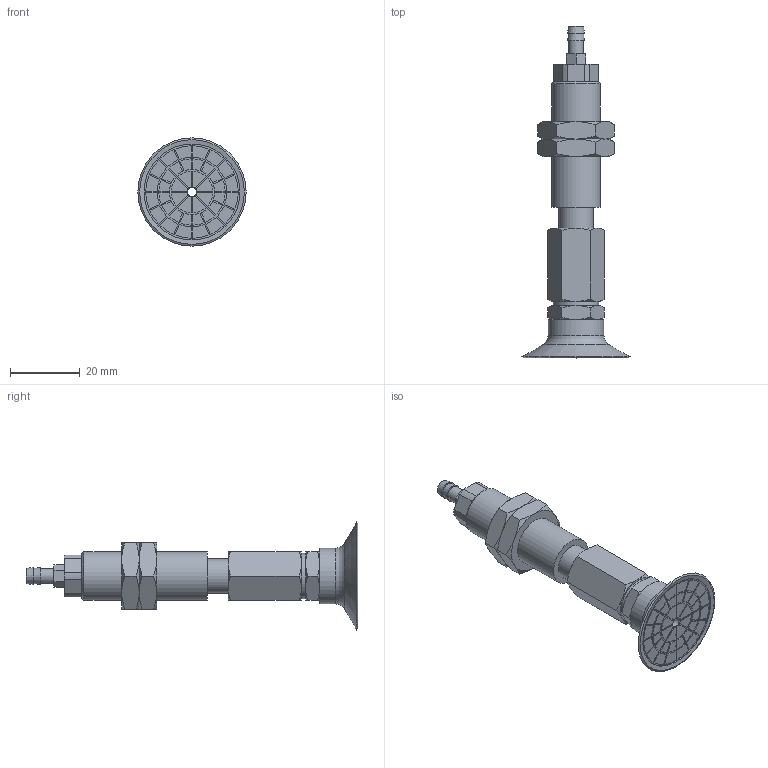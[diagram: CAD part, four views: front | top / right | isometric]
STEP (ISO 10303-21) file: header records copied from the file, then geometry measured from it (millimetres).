
FILE_DESCRIPTION(('STEP AP203'),'1');
FILE_NAME('-T.stp','2025-08-26T09:07:22',(' '),(' '),'Spatial InterOp 3D',' ',' ');
FILE_SCHEMA(('CONFIG_CONTROL_DESIGN'));
Length unit declared in the file: millimetre
Products named in the file (8): BNABPATS-30B-6-※-T; ADAPTER; NAPATS-30B-6--M; NAPATS-30B-6--F; Nut-25-S; TN-PA-30B-M6; T; BPAG-30B-※_3D
Assembly tree (8 placements, depth 2):
  BNABPATS-30B-6-※-T
    ADAPTER
    NAPATS-30B-6--M
    NAPATS-30B-6--F
    Nut-25-S  x2
    TN-PA-30B-M6
    T
    BPAG-30B-※_3D
Bounding box: 31.04 x 95.2 x 31.04 mm (x, y, z)
Volume: 15511.7 mm3; surface area: 12131.5 mm2
Topology: 8 solids, 8 shells, 366 faces, 846 edges, 541 vertices
Faces by surface type: plane 197, cylinder 100, cone 63, torus 6
Full cylindrical faces by diameter (mm): 2.5 x1, 3 x4, 4.134 x1, 4.3 x1, 4.917 x1, 5 x1, 6 x3, 10 x4, 12.917 x2, 13 x1, 14 x1, 16 x1, 27.5 x1
Entity records: 10167 total; most frequent: CARTESIAN_POINT 1994, DIRECTION 1657, ORIENTED_EDGE 1502, EDGE_CURVE 751, AXIS2_PLACEMENT_3D 626, VERTEX_POINT 507, EDGE_LOOP 442, LINE 405
